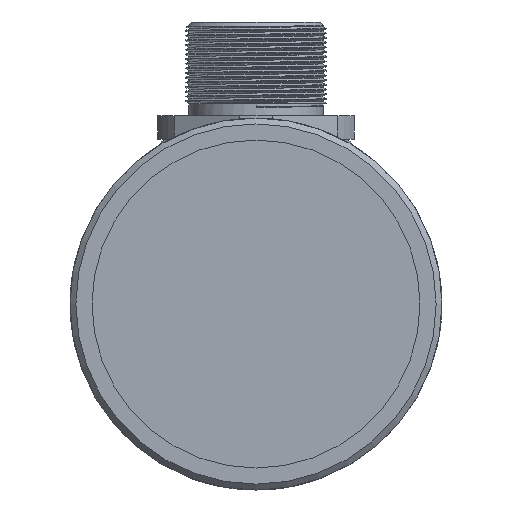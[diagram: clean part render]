
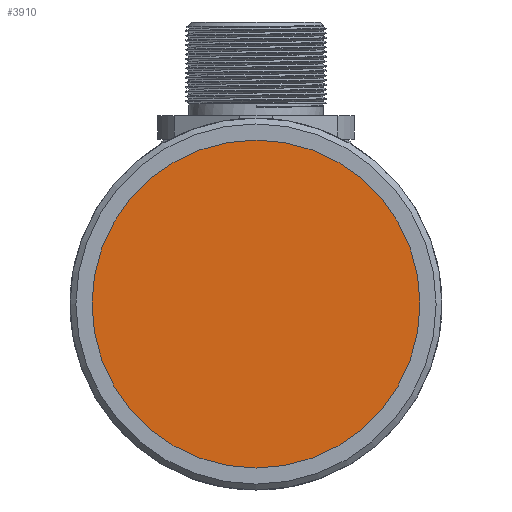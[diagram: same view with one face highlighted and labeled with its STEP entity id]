
A CAD part, left-side view. The second image highlights one B-rep face of the part: STEP entity #3910.
In plain terms, the highlighted planar face has unit normal (-1, 0, 0).
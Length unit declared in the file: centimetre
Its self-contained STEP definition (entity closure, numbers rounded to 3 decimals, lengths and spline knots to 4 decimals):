
#1185=PLANE('',#4153);
#1259=CIRCLE('',#4151,1.4);
#1430=VERTEX_POINT('',#5404);
#1916=EDGE_CURVE('',#1430,#1430,#1259,.T.);
#2554=ORIENTED_EDGE('',*,*,#1916,.T.);
#3376=EDGE_LOOP('',(#2554));
#3648=FACE_BOUND('',#3376,.T.);
#3910=ADVANCED_FACE('',(#3648),#1185,.T.);
#4151=AXIS2_PLACEMENT_3D('',#5403,#4546,#4547);
#4153=AXIS2_PLACEMENT_3D('',#5407,#4550,$);
#4546=DIRECTION('',(-1.,0.,0.));
#4547=DIRECTION('',(0.,0.,1.4));
#4550=DIRECTION('',(-1.,0.,0.));
#5403=CARTESIAN_POINT('',(0.1,0.,0.));
#5404=CARTESIAN_POINT('',(0.1,0.,1.4));
#5407=CARTESIAN_POINT('',(0.1,0.,0.));
